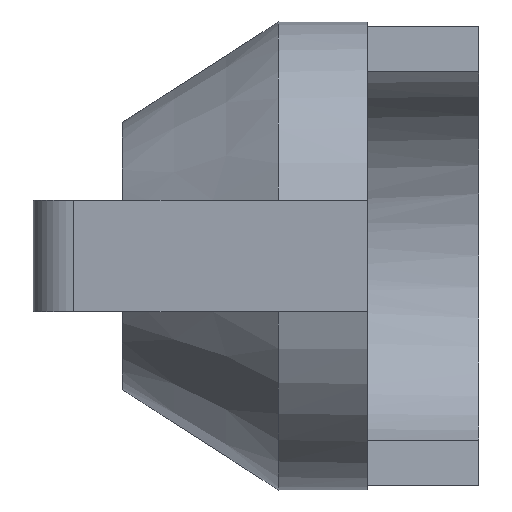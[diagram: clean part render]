
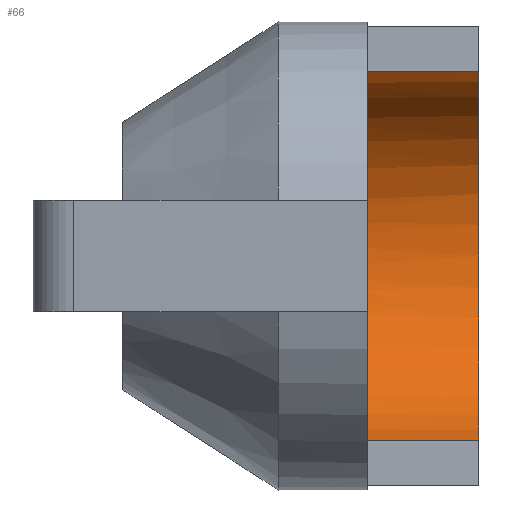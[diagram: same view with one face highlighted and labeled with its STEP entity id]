
A CAD part, left-side view. The second image highlights one B-rep face of the part: STEP entity #66.
In plain terms, the highlighted cylindrical face has radius 8.5 mm (diameter 17 mm), a partial arc.
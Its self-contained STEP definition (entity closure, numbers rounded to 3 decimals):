
#66=ADVANCED_FACE('',(#478),#480,.F.);
#478=FACE_BOUND('',#479,.T.);
#479=EDGE_LOOP('',(#828,#829,#830,#831,#832,#833,#834,#835,#836,#837,#838,#839,#840,
#841,#842,#843));
#480=CYLINDRICAL_SURFACE('',#481,8.5);
#481=AXIS2_PLACEMENT_3D('',#482,#483,#484);
#482=CARTESIAN_POINT('',(0.,8.5,0.));
#483=DIRECTION('',(0.,-1.,0.));
#484=DIRECTION('',(1.,0.,0.));
#828=ORIENTED_EDGE('',*,*,#1076,.F.);
#829=ORIENTED_EDGE('',*,*,#1077,.F.);
#830=ORIENTED_EDGE('',*,*,#1066,.T.);
#831=ORIENTED_EDGE('',*,*,#1078,.F.);
#832=ORIENTED_EDGE('',*,*,#1079,.F.);
#833=ORIENTED_EDGE('',*,*,#1080,.F.);
#834=ORIENTED_EDGE('',*,*,#1081,.F.);
#835=ORIENTED_EDGE('',*,*,#1082,.F.);
#836=ORIENTED_EDGE('',*,*,#1070,.T.);
#837=ORIENTED_EDGE('',*,*,#1083,.F.);
#838=ORIENTED_EDGE('',*,*,#1084,.F.);
#839=ORIENTED_EDGE('',*,*,#1056,.T.);
#840=ORIENTED_EDGE('',*,*,#1085,.T.);
#841=ORIENTED_EDGE('',*,*,#1086,.F.);
#842=ORIENTED_EDGE('',*,*,#1087,.T.);
#843=ORIENTED_EDGE('',*,*,#1058,.T.);
#1056=EDGE_CURVE('',#1180,#1181,#1182,.T.);
#1058=EDGE_CURVE('',#1185,#1183,#1186,.T.);
#1066=EDGE_CURVE('',#1200,#1201,#1202,.F.);
#1070=EDGE_CURVE('',#1209,#1207,#1210,.F.);
#1076=EDGE_CURVE('',#1220,#1183,#1221,.T.);
#1077=EDGE_CURVE('',#1200,#1220,#1222,.T.);
#1078=EDGE_CURVE('',#1223,#1201,#1224,.F.);
#1079=EDGE_CURVE('',#1225,#1223,#1226,.T.);
#1080=EDGE_CURVE('',#1227,#1225,#1228,.T.);
#1081=EDGE_CURVE('',#1229,#1227,#1230,.T.);
#1082=EDGE_CURVE('',#1209,#1229,#1231,.T.);
#1083=EDGE_CURVE('',#1232,#1207,#1233,.F.);
#1084=EDGE_CURVE('',#1180,#1232,#1234,.T.);
#1085=EDGE_CURVE('',#1181,#1235,#1236,.T.);
#1086=EDGE_CURVE('',#1237,#1235,#1238,.F.);
#1087=EDGE_CURVE('',#1237,#1185,#1239,.F.);
#1180=VERTEX_POINT('',#1390);
#1181=VERTEX_POINT('',#1391);
#1182=CIRCLE('',#1392,8.5);
#1183=VERTEX_POINT('',#1396);
#1185=VERTEX_POINT('',#1400);
#1186=CIRCLE('',#1401,8.5);
#1200=VERTEX_POINT('',#1434);
#1201=VERTEX_POINT('',#1435);
#1202=CIRCLE('',#1436,8.5);
#1207=VERTEX_POINT('',#1506);
#1209=VERTEX_POINT('',#1516);
#1210=CIRCLE('',#1517,8.5);
#1220=VERTEX_POINT('',#1589);
#1221=(BOUNDED_CURVE()B_SPLINE_CURVE(3,
(#1590,#1591,#1592,#1593),
.UNSPECIFIED.,.F.,.F.)B_SPLINE_CURVE_WITH_KNOTS((4,4),
(0.,1.),
.UNSPECIFIED.)CURVE()GEOMETRIC_REPRESENTATION_ITEM()RATIONAL_B_SPLINE_CURVE((1.,
0.998,0.998,1.))REPRESENTATION_ITEM(''));
#1222=LINE('',#1594,#1595);
#1223=VERTEX_POINT('',#1597);
#1224=LINE('',#1598,#1599);
#1225=VERTEX_POINT('',#1601);
#1226=(BOUNDED_CURVE()B_SPLINE_CURVE(3,
(#1602,#1603,#1604,#1605),
.UNSPECIFIED.,.F.,.F.)B_SPLINE_CURVE_WITH_KNOTS((4,4),
(0.,1.),
.UNSPECIFIED.)CURVE()GEOMETRIC_REPRESENTATION_ITEM()RATIONAL_B_SPLINE_CURVE((1.,
0.998,0.998,1.))REPRESENTATION_ITEM(''));
#1227=VERTEX_POINT('',#1606);
#1228=CIRCLE('',#1607,8.5);
#1229=VERTEX_POINT('',#1611);
#1230=(BOUNDED_CURVE()B_SPLINE_CURVE(3,
(#1612,#1613,#1614,#1615),
.UNSPECIFIED.,.F.,.F.)B_SPLINE_CURVE_WITH_KNOTS((4,4),
(0.,1.),
.UNSPECIFIED.)CURVE()GEOMETRIC_REPRESENTATION_ITEM()RATIONAL_B_SPLINE_CURVE((1.,
0.998,0.998,1.))REPRESENTATION_ITEM(''));
#1231=LINE('',#1616,#1617);
#1232=VERTEX_POINT('',#1619);
#1233=LINE('',#1620,#1621);
#1234=(BOUNDED_CURVE()B_SPLINE_CURVE(3,
(#1623,#1624,#1625,#1626),
.UNSPECIFIED.,.F.,.F.)B_SPLINE_CURVE_WITH_KNOTS((4,4),
(0.,1.),
.UNSPECIFIED.)CURVE()GEOMETRIC_REPRESENTATION_ITEM()RATIONAL_B_SPLINE_CURVE((1.,
0.998,0.998,1.))REPRESENTATION_ITEM(''));
#1235=VERTEX_POINT('',#1627);
#1236=LINE('',#1628,#1629);
#1237=VERTEX_POINT('',#1631);
#1238=CIRCLE('',#1632,8.5);
#1239=LINE('',#1636,#1637);
#1390=CARTESIAN_POINT('',(-8.432,5.,-1.071));
#1391=CARTESIAN_POINT('',(2.,5.,-8.261));
#1392=AXIS2_PLACEMENT_3D('',#1393,#1394,#1395);
#1393=CARTESIAN_POINT('',(0.,5.,0.));
#1394=DIRECTION('',(0.,-1.,0.));
#1395=DIRECTION('',(-0.992,0.,-0.126));
#1396=CARTESIAN_POINT('',(-8.432,5.,1.071));
#1400=CARTESIAN_POINT('',(2.,5.,8.261));
#1401=AXIS2_PLACEMENT_3D('',#1402,#1403,#1404);
#1402=CARTESIAN_POINT('',(0.,5.,0.));
#1403=DIRECTION('',(0.,-1.,0.));
#1404=DIRECTION('',(0.235,0.,0.972));
#1434=CARTESIAN_POINT('',(-8.124,8.5,2.5));
#1435=CARTESIAN_POINT('',(8.124,8.5,2.5));
#1436=AXIS2_PLACEMENT_3D('',#1437,#1438,#1439);
#1437=CARTESIAN_POINT('',(0.,8.5,0.));
#1438=DIRECTION('',(0.,-1.,0.));
#1439=DIRECTION('',(0.956,0.,0.294));
#1506=CARTESIAN_POINT('',(-8.124,8.5,-2.5));
#1516=CARTESIAN_POINT('',(8.124,8.5,-2.5));
#1517=AXIS2_PLACEMENT_3D('',#1518,#1519,#1520);
#1518=CARTESIAN_POINT('',(0.,8.5,0.));
#1519=DIRECTION('',(0.,-1.,0.));
#1520=DIRECTION('',(-0.956,0.,-0.294));
#1589=CARTESIAN_POINT('',(-8.124,6.722,2.5));
#1590=CARTESIAN_POINT('',(-8.124,6.722,2.5));
#1591=CARTESIAN_POINT('',(-8.268,5.92,2.033));
#1592=CARTESIAN_POINT('',(-8.371,5.344,1.556));
#1593=CARTESIAN_POINT('',(-8.432,5.,1.071));
#1594=CARTESIAN_POINT('',(-8.124,8.5,2.5));
#1595=VECTOR('',#1596,1.);
#1596=DIRECTION('',(0.,-1.,0.));
#1597=CARTESIAN_POINT('',(8.124,6.722,2.5));
#1598=CARTESIAN_POINT('',(8.124,8.5,2.5));
#1599=VECTOR('',#1600,1.);
#1600=DIRECTION('',(0.,-1.,0.));
#1601=CARTESIAN_POINT('',(8.432,5.,1.071));
#1602=CARTESIAN_POINT('',(8.432,5.,1.071));
#1603=CARTESIAN_POINT('',(8.371,5.344,1.556));
#1604=CARTESIAN_POINT('',(8.268,5.92,2.033));
#1605=CARTESIAN_POINT('',(8.124,6.722,2.5));
#1606=CARTESIAN_POINT('',(8.432,5.,-1.071));
#1607=AXIS2_PLACEMENT_3D('',#1608,#1609,#1610);
#1608=CARTESIAN_POINT('',(0.,5.,0.));
#1609=DIRECTION('',(0.,-1.,0.));
#1610=DIRECTION('',(0.992,0.,-0.126));
#1611=CARTESIAN_POINT('',(8.124,6.722,-2.5));
#1612=CARTESIAN_POINT('',(8.124,6.722,-2.5));
#1613=CARTESIAN_POINT('',(8.268,5.92,-2.033));
#1614=CARTESIAN_POINT('',(8.371,5.344,-1.556));
#1615=CARTESIAN_POINT('',(8.432,5.,-1.071));
#1616=CARTESIAN_POINT('',(8.124,8.5,-2.5));
#1617=VECTOR('',#1618,1.);
#1618=DIRECTION('',(0.,-1.,0.));
#1619=CARTESIAN_POINT('',(-8.124,6.722,-2.5));
#1620=CARTESIAN_POINT('',(-8.124,8.5,-2.5));
#1621=VECTOR('',#1622,1.);
#1622=DIRECTION('',(0.,-1.,0.));
#1623=CARTESIAN_POINT('',(-8.432,5.,-1.071));
#1624=CARTESIAN_POINT('',(-8.371,5.344,-1.556));
#1625=CARTESIAN_POINT('',(-8.268,5.92,-2.033));
#1626=CARTESIAN_POINT('',(-8.124,6.722,-2.5));
#1627=CARTESIAN_POINT('',(2.,0.,-8.261));
#1628=CARTESIAN_POINT('',(2.,5.,-8.261));
#1629=VECTOR('',#1630,1.);
#1630=DIRECTION('',(0.,-1.,0.));
#1631=CARTESIAN_POINT('',(2.,0.,8.261));
#1632=AXIS2_PLACEMENT_3D('',#1633,#1634,#1635);
#1633=CARTESIAN_POINT('',(0.,0.,0.));
#1634=DIRECTION('',(0.,-1.,0.));
#1635=DIRECTION('',(0.235,0.,-0.972));
#1636=CARTESIAN_POINT('',(2.,5.,8.261));
#1637=VECTOR('',#1638,1.);
#1638=DIRECTION('',(0.,-1.,0.));
